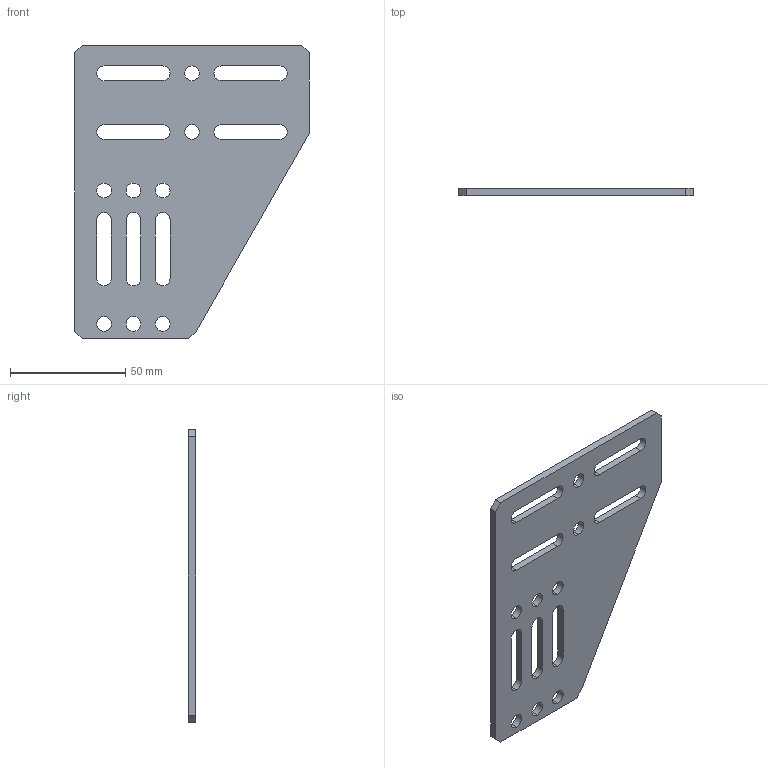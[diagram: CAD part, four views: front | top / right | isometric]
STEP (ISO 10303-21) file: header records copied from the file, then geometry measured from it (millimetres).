
FILE_DESCRIPTION (( 'STEP AP203' ), '1' );
FILE_NAME ('IFI-FRAME-GUSS RevA.STEP', '2012-01-16T22:10:10', ( 'vex_intern' ), ( 'Microsoft' ), 'SwSTEP 2.0', 'SolidWorks 2011', '' );
FILE_SCHEMA (( 'CONFIG_CONTROL_DESIGN' ));
Length unit declared in the file: inch
Products named in the file (1): IFI-FRAME-GUSS RevA
Bounding box: 101.6 x 3.17 x 127 mm (x, y, z)
Volume: 28637.6 mm3; surface area: 21436.4 mm2
Topology: 1 solids, 1 shells, 69 faces, 201 edges, 134 vertices
Faces by surface type: cylinder 44, plane 25
Entity records: 2462 total; most frequent: DIRECTION 429, CARTESIAN_POINT 405, ORIENTED_EDGE 402, EDGE_CURVE 201, AXIS2_PLACEMENT_3D 158, VERTEX_POINT 134, LINE 113, VECTOR 113
